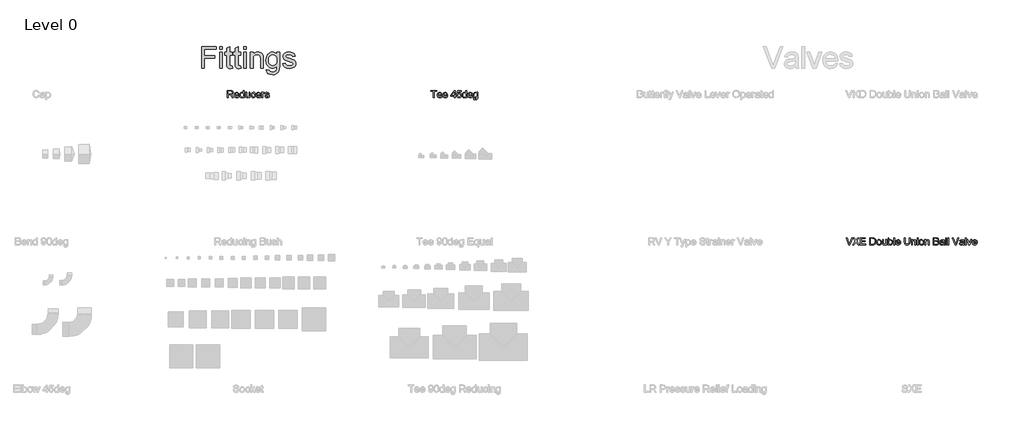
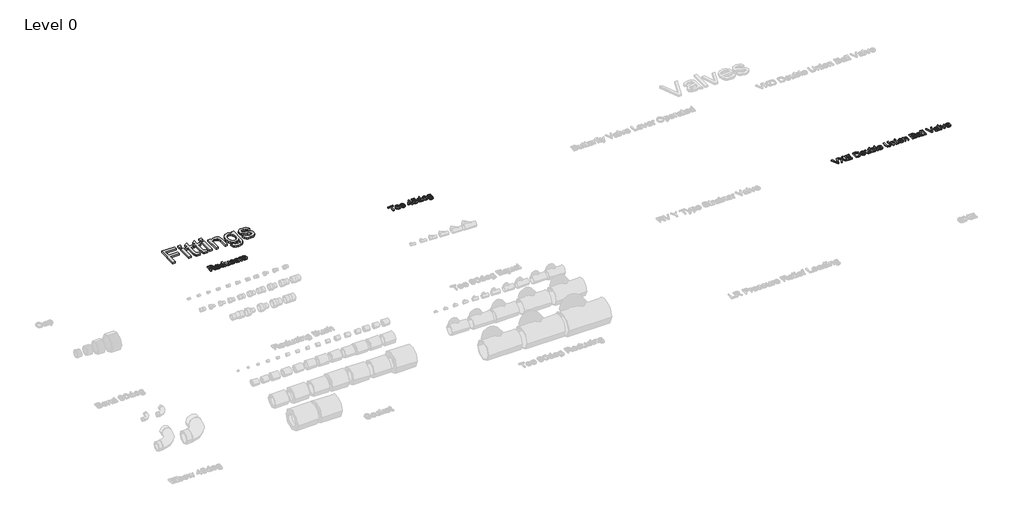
# One storey, part 10 of 12: 4 proxies.
"""IFC4 building model written with IfcOpenShell, lengths in millimetres."""

import ifcopenshell
import ifcopenshell.guid

model = None  # the IFC model being written
_history = None  # IfcOwnerHistory: only IFC2X3 demands one
_inside = {}  # id of a spatial element -> (the spatial element, [elements in it])
_under = {}  # id of a project, library or spatial element -> (it, [spatial elements below it])
_declared = {}  # id of a project -> (the project, [libraries it declares])
_typed = {}  # id of a type object -> (the type object, [elements of that type])
_made_of = {}  # id of a material, layer set ... -> (it, [elements and type objects made of it])


def new_model(schema):
    """Start an empty IFC model of exactly this schema.

    Asked for "IFC4X3", IfcOpenShell would pick the latest addendum, in which some entities
    have other attributes; the version numbers below select the first issue.
    IFC2X3 requires an IfcOwnerHistory on every rooted entity: one is made here for all.
    """
    global model, _history
    if schema == "IFC4X3":
        model = ifcopenshell.file(schema_version=(4, 3, 0, 0))
    else:
        model = ifcopenshell.file(schema=schema)
    _inside.clear()
    _under.clear()
    _declared.clear()
    _typed.clear()
    _made_of.clear()
    _history = None
    if model.schema == "IFC2X3":
        org = make("IfcOrganization", Name="unknown")
        user = make(
            "IfcPersonAndOrganization",
            ThePerson=make("IfcPerson", FamilyName="unknown"),
            TheOrganization=org,
        )
        app = make(
            "IfcApplication",
            ApplicationDeveloper=org,
            Version="unknown",
            ApplicationFullName="unknown",
            ApplicationIdentifier="unknown",
        )
        _history = make(
            "IfcOwnerHistory",
            OwningUser=user,
            OwningApplication=app,
            ChangeAction="ADDED",
            CreationDate=0,
        )
    return model


def make(cls, **values):
    """One entity of the class cls with the attributes given. An attribute that is None is left unset."""
    return model.create_entity(
        cls, **{name: value for name, value in values.items() if value is not None}
    )


def rooted(cls, **values):
    """An entity with a GlobalId (a new one), such as an element, a storey or a relation."""
    return make(cls, GlobalId=ifcopenshell.guid.new(), OwnerHistory=_history, **values)


def si_unit(unit_type, name, prefix=None):
    """IfcSIUnit, for example si_unit("LENGTHUNIT", "METRE", prefix="MILLI")."""
    return make("IfcSIUnit", UnitType=unit_type, Prefix=prefix, Name=name)


def assignment(units):
    """IfcUnitAssignment: the units of a project."""
    return None if units is None else make("IfcUnitAssignment", Units=units)


def point(xyz):
    """IfcCartesianPoint."""
    return None if xyz is None else make("IfcCartesianPoint", Coordinates=xyz)


def direction(xyz):
    """IfcDirection."""
    return None if xyz is None else make("IfcDirection", DirectionRatios=xyz)


def frame(location, z_axis=None, x_axis=None):
    """IfcAxis2Placement3D, a coordinate frame: its origin and axes. An axis left out is left unset."""
    return make(
        "IfcAxis2Placement3D",
        Location=point(location),
        Axis=direction(z_axis),
        RefDirection=direction(x_axis),
    )


def origin():
    """The frame at (0, 0, 0) with its axes left unset."""
    return frame((0.0, 0.0, 0.0))


def origin_with_axes():
    """The frame at (0, 0, 0) with the z axis (0, 0, 1) and the x axis (1, 0, 0) written out."""
    return frame((0.0, 0.0, 0.0), z_axis=(0.0, 0.0, 1.0), x_axis=(1.0, 0.0, 0.0))


def place(relative_to, where):
    """IfcLocalPlacement: puts the frame where relative to a parent placement (None: the world)."""
    return make(
        "IfcLocalPlacement", PlacementRelTo=relative_to, RelativePlacement=where
    )


def context(
    kind, dimensions, precision=None, world=None, true_north=None, identifier=None
):
    """IfcGeometricRepresentationContext, for example the 3D "Model" context."""
    return make(
        "IfcGeometricRepresentationContext",
        ContextIdentifier=identifier,
        ContextType=kind,
        CoordinateSpaceDimension=dimensions,
        Precision=precision,
        WorldCoordinateSystem=world,
        TrueNorth=true_north,
    )


def project(units=None, contexts=None):
    """IfcProject with its units and contexts."""
    return rooted(
        "IfcProject",
        Name="project",
        RepresentationContexts=contexts,
        UnitsInContext=assignment(units),
    )


def spatial(cls, under=None, at=None, **own):
    """A site, building, storey or space (cls), placed at a placement, below another one or the project."""
    s = rooted(cls, ObjectPlacement=at, **own)
    if under is not None:
        _under.setdefault(under.id(), (under, []))[1].append(s)
    return s


def polyline(points):
    """IfcPolyline through the points."""
    return make("IfcPolyline", Points=[point(p) for p in points])


def outline(outer, holes=None, kind="AREA"):
    """IfcArbitraryClosedProfileDef: a profile drawn as a closed curve; with holes, ...WithVoids."""
    if holes is None:
        return make("IfcArbitraryClosedProfileDef", ProfileType=kind, OuterCurve=outer)
    return make(
        "IfcArbitraryProfileDefWithVoids",
        ProfileType=kind,
        OuterCurve=outer,
        InnerCurves=holes,
    )


def extrude(swept, where, along, depth):
    """IfcExtrudedAreaSolid: the profile swept, set in the frame where, extruded along a direction by depth."""
    return make(
        "IfcExtrudedAreaSolid",
        SweptArea=swept,
        Position=where,
        ExtrudedDirection=direction(along),
        Depth=depth,
    )


def shape(context_of_items, identifier, shape_type, items):
    """IfcShapeRepresentation: the items that make up one representation, for example the "Body"."""
    return make(
        "IfcShapeRepresentation",
        ContextOfItems=context_of_items,
        RepresentationIdentifier=identifier,
        RepresentationType=shape_type,
        Items=items,
    )


def made_of(thing, what):
    """Note that an element or type object is made of a material, layer set ...; save() writes the relation."""
    if what is not None:
        _made_of.setdefault(what.id(), (what, []))[1].append(thing)
    return thing


def element(
    cls,
    number,
    at=None,
    inside=None,
    cuts=None,
    type_object=None,
    material=None,
    context=None,
    identifier="Body",
    shape_type=None,
    held_by="IfcProductDefinitionShape",
    body=None,
    shapes=None,
    **own,
):
    """One element of the class cls, such as IfcWall. Its Tag is "e" and its number.

    at: its placement. inside: the storey or other place that contains it. cuts: it is an
    opening in that element (IfcRelVoidsElement). A single representation is given by context,
    identifier, shape_type and body (its items); several are given by shapes. held_by: the class
    of the entity that holds the representations. save() writes the other relations.
    """
    e = rooted(cls, Tag="e%d" % number, ObjectPlacement=at, **own)
    if body is not None:
        shapes = [shape(context, identifier, shape_type, body)]
    if shapes is not None:
        e.Representation = make(held_by, Representations=shapes)
    if inside is not None:
        _inside.setdefault(inside.id(), (inside, []))[1].append(e)
    if cuts is not None:
        rooted(
            "IfcRelVoidsElement", RelatingBuildingElement=cuts, RelatedOpeningElement=e
        )
    if type_object is not None:
        _typed.setdefault(type_object.id(), (type_object, []))[1].append(e)
    return made_of(e, material)


def aggregate(whole, parts):
    """IfcRelAggregates: a whole, such as a stair, and the parts it consists of."""
    return rooted("IfcRelAggregates", RelatingObject=whole, RelatedObjects=parts)


def save(model, path):
    """Write the relations noted so far, then the file.

    IfcRelAggregates (storeys below a building ...), IfcRelContainedInSpatialStructure (elements
    in a storey), IfcRelDefinesByType, IfcRelAssociatesMaterial and IfcRelDeclares: one each for
    every whole, place, type object, material and project.
    """
    for whole, parts in _under.values():
        aggregate(whole, parts)
    for where, things in _inside.values():
        rooted(
            "IfcRelContainedInSpatialStructure",
            RelatedElements=things,
            RelatingStructure=where,
        )
    for kind, things in _typed.values():
        rooted("IfcRelDefinesByType", RelatedObjects=things, RelatingType=kind)
    for what, things in _made_of.values():
        rooted("IfcRelAssociatesMaterial", RelatedObjects=things, RelatingMaterial=what)
    for by, libraries in _declared.values():
        rooted("IfcRelDeclares", RelatingContext=by, RelatedDefinitions=libraries)
    model.write(path)


model = new_model("IFC4")

# Units and contexts
model_context = context("Model", 3, world=origin())
ifc_project = project(units=[si_unit("LENGTHUNIT", "METRE", prefix="MILLI")], contexts=[model_context])

# Site, building, storey
site = spatial("IfcSite", under=ifc_project)
building = spatial("IfcBuilding", under=site)
storey = spatial("IfcBuildingStorey", under=building, Name="Level 0", Elevation=0.0)

# Proxies
placement = place(None, origin())
element("IfcBuildingElementProxy", 1, Name="150mm Arial", ObjectType="150mm Arial", at=placement, inside=storey, context=model_context, shape_type="SweptSolid", body=[
    extrude(outline(polyline([(-13718.7361766, 8945.7253457), (-13718.7361766, 9044.1868842), (-13676.3082919, 9044.1868842), (-13656.6087727, 9041.5306342), (-13645.8395419, 9032.1315957), (-13641.8130996, 9017.2397688), (-13643.4807679, 9007.5402496), (-13648.4837727, 8999.4993842), (-13656.9723544, 8993.6039515), (-13669.0967535, 8990.3407304), (-13662.1015612, 8985.0763073), (-13652.1255996, 8972.408038), (-13635.7073304, 8945.7253457), (-13650.010215, 8945.7253457), (-13662.822715, 8966.1339996), (-13672.0775227, 8979.643615), (-13678.5799266, 8986.0258265), (-13684.4332919, 8988.3695765), (-13691.572715, 8988.8022688), (-13706.4284843, 8988.8022688), (-13706.4284843, 8945.7253457), (-13718.7361766, 8945.7253457)]), holes=[polyline([(-13706.4284843, 9001.1099611), (-13678.8804073, 9001.1099611), (-13664.8299266, 9002.8527496), (-13656.8491573, 9008.4296727), (-13654.1207919, 9016.783038), (-13659.3251189, 9027.6243842), (-13675.7794458, 9031.8791919), (-13706.4284843, 9031.8791919), (-13706.4284843, 9001.1099611)])]), origin_with_axes(), (0.0, 0.0, 1.0), 15.0),
    extrude(outline(polyline([(-13571.1880996, 8967.2638073), (-13559.1207919, 8965.7253457), (-13563.4687487, 8956.6327977), (-13570.4068496, 8949.8359227), (-13579.7788448, 8945.5991438), (-13591.4284843, 8944.1868842), (-13605.86959, 8946.6237832), (-13616.9813689, 8953.9344804), (-13624.0667054, 8965.6442159), (-13626.4284843, 8981.2782304), (-13624.0426669, 8997.4380861), (-13616.885215, 9009.5234227), (-13605.9236766, 9017.0594804), (-13592.1255996, 9019.5714996), (-13578.7572102, 9017.06549), (-13568.0751189, 9009.5474611), (-13561.0709121, 8997.486163), (-13558.7361766, 8981.3503457), (-13558.8082919, 8978.033038), (-13614.1207919, 8978.033038), (-13611.9903833, 8968.8202977), (-13607.041465, 8962.0474611), (-13591.1880996, 8956.4945765), (-13579.1207919, 8959.0666919), (-13571.1880996, 8967.2638073)]), holes=[polyline([(-13614.1207919, 8990.3407304), (-13571.0438689, 8990.3407304), (-13575.9717535, 9001.4945765), (-13583.1472343, 9005.8214996), (-13592.1736766, 9007.2638073), (-13607.3299266, 9002.6604419), (-13614.1207919, 8990.3407304)])]), origin_with_axes(), (0.0, 0.0, 1.0), 15.0),
    extrude(outline(polyline([(-13501.8130996, 8945.7253457), (-13501.8130996, 8957.3359227), (-13509.9561285, 8947.4741438), (-13521.2121381, 8944.1868842), (-13536.4525227, 8948.9464996), (-13547.2217535, 8962.2277496), (-13551.0438689, 8981.8070765), (-13547.5222343, 9001.3984227), (-13536.9693496, 9014.8839996), (-13521.260215, 9019.5714996), (-13509.9140612, 9016.2181342), (-13501.8130996, 9007.5041919), (-13501.8130996, 9044.1868842), (-13489.5054073, 9044.1868842), (-13489.5054073, 8945.7253457), (-13501.8130996, 8945.7253457)]), holes=[polyline([(-13538.7361766, 8981.8551534), (-13537.3479554, 8970.7223409), (-13533.1832919, 8962.8046727), (-13527.1316093, 8958.0721005), (-13520.0823304, 8956.4945765), (-13513.0360564, 8957.9999852), (-13507.1376189, 8962.5162111), (-13503.1442294, 8970.127389), (-13501.8130996, 8980.9176534), (-13503.1682679, 8992.7145284), (-13507.2337727, 9000.893615), (-13513.2824506, 9005.6712592), (-13520.5871381, 9007.2638073), (-13527.7085323, 9005.7343602), (-13533.5438689, 9001.1460188), (-13537.4380996, 8993.2644082), (-13538.7361766, 8981.8551534)])]), origin_with_axes(), (0.0, 0.0, 1.0), 15.0),
    extrude(outline(polyline([(-13424.8900227, 8945.7253457), (-13424.8900227, 8958.1532304), (-13434.5294458, 8947.6784707), (-13447.1015612, 8944.1868842), (-13458.6760804, 8946.6388073), (-13466.6568496, 8952.7926534), (-13470.322715, 8961.8551534), (-13471.0438689, 8973.2974611), (-13471.0438689, 9018.033038), (-13458.7361766, 9018.033038), (-13458.7361766, 8979.0907304), (-13457.9909843, 8966.5426534), (-13453.1231958, 8959.174865), (-13443.9525227, 8956.4945765), (-13433.6760804, 8959.2349611), (-13426.885215, 8966.6989034), (-13424.8900227, 8980.4128457), (-13424.8900227, 9018.033038), (-13412.5823304, 9018.033038), (-13412.5823304, 8945.7253457), (-13424.8900227, 8945.7253457)])), origin_with_axes(), (0.0, 0.0, 1.0), 15.0),
    extrude(outline(polyline([(-13349.5054073, 8971.8791919), (-13337.197715, 8970.3407304), (-13340.6292054, 8959.3942159), (-13347.0775227, 8951.1219804), (-13355.9356958, 8945.9206582), (-13366.5967535, 8944.1868842), (-13379.6887006, 8946.6057544), (-13389.9260804, 8953.862365), (-13396.5336525, 8965.6382063), (-13398.7361766, 8981.6147688), (-13394.9741573, 9002.0594804), (-13383.5078112, 9015.1964996), (-13366.7650227, 9019.5714996), (-13356.3653833, 9018.0690957), (-13348.0510804, 9013.5618842), (-13342.0865371, 9006.2902496), (-13338.7361766, 8996.4945765), (-13351.0438689, 8994.956115), (-13356.7530035, 9004.174865), (-13366.6688689, 9007.2638073), (-13374.6225948, 9005.7433746), (-13380.9356958, 9001.1820765), (-13385.0552871, 8993.3335188), (-13386.4284843, 8981.9513073), (-13385.0853352, 8970.4158505), (-13381.0558881, 8962.5402496), (-13374.8569698, 8958.0059948), (-13367.0054073, 8956.4945765), (-13355.4068496, 8960.268615), (-13349.5054073, 8971.8791919)])), origin_with_axes(), (0.0, 0.0, 1.0), 15.0),
    extrude(outline(polyline([(-13275.8034843, 8967.2638073), (-13263.7361766, 8965.7253457), (-13268.0841333, 8956.6327977), (-13275.0222343, 8949.8359227), (-13284.3942294, 8945.5991438), (-13296.0438689, 8944.1868842), (-13310.4849746, 8946.6237832), (-13321.5967535, 8953.9344804), (-13328.68209, 8965.6442159), (-13331.0438689, 8981.2782304), (-13328.6580516, 8997.4380861), (-13321.5005996, 9009.5234227), (-13310.5390612, 9017.0594804), (-13296.7409843, 9019.5714996), (-13283.3725948, 9017.06549), (-13272.6905035, 9009.5474611), (-13265.6862968, 8997.486163), (-13263.3515612, 8981.3503457), (-13263.4236766, 8978.033038), (-13318.7361766, 8978.033038), (-13316.6057679, 8968.8202977), (-13311.6568496, 8962.0474611), (-13295.8034843, 8956.4945765), (-13283.7361766, 8959.0666919), (-13275.8034843, 8967.2638073)]), holes=[polyline([(-13318.7361766, 8990.3407304), (-13275.6592535, 8990.3407304), (-13280.5871381, 9001.4945765), (-13287.7626189, 9005.8214996), (-13296.7890612, 9007.2638073), (-13311.9453112, 9002.6604419), (-13318.7361766, 8990.3407304)])]), origin_with_axes(), (0.0, 0.0, 1.0), 15.0),
    extrude(outline(polyline([(-13251.0438689, 8945.7253457), (-13251.0438689, 9018.033038), (-13240.2746381, 9018.033038), (-13240.2746381, 9007.3359227), (-13232.6304073, 9017.1916919), (-13224.9380996, 9019.5714996), (-13212.5823304, 9015.7734227), (-13216.6929073, 9004.7397688), (-13225.3467535, 9007.2638073), (-13232.3058881, 9004.8359227), (-13236.7409843, 8998.1051534), (-13238.7361766, 8983.7301534), (-13238.7361766, 8945.7253457), (-13251.0438689, 8945.7253457)])), origin_with_axes(), (0.0, 0.0, 1.0), 15.0),
    extrude(outline(polyline([(-13209.5054073, 8967.2638073), (-13197.197715, 8968.8022688), (-13191.5005996, 8959.6676534), (-13178.447715, 8956.4945765), (-13165.8996381, 8959.4032304), (-13161.8130996, 8966.2301534), (-13165.9236766, 8971.7589996), (-13178.5919458, 8975.268615), (-13197.1255996, 8981.2902496), (-13205.2145419, 8988.3214996), (-13207.9669458, 8998.2493842), (-13205.7554073, 9007.4200573), (-13199.7217535, 9014.4272688), (-13191.8972343, 9018.0690957), (-13181.3082919, 9019.5714996), (-13166.3323304, 9017.1556342), (-13156.8130996, 9010.6171727), (-13152.5823304, 8999.5714996), (-13164.8900227, 8998.033038), (-13169.5174266, 9004.8239034), (-13180.3467535, 9007.2638073), (-13192.1255996, 9004.9320765), (-13195.6592535, 8999.4993842), (-13194.1929073, 8995.9176534), (-13189.6015612, 8993.2013073), (-13179.0005996, 8990.581115), (-13160.9356958, 8984.7878457), (-13152.5462727, 8978.2253457), (-13149.5054073, 8967.5282304), (-13153.0751189, 8955.7493842), (-13163.3755996, 8947.2037111), (-13178.6159843, 8944.1868842), (-13191.02584, 8945.6412111), (-13200.0823304, 8950.0041919), (-13206.1280035, 8957.2277496), (-13209.5054073, 8967.2638073)])), origin_with_axes(), (0.0, 0.0, 1.0), 15.0),
])
element("IfcBuildingElementProxy", 2, Name="150mm Arial", ObjectType="150mm Arial", at=placement, inside=storey, context=model_context, shape_type="SweptSolid", body=[
    extrude(outline(polyline([(-10926.4284843, 8945.7253457), (-10926.4284843, 9031.8791919), (-10958.7361766, 9031.8791919), (-10958.7361766, 9044.1868842), (-10881.8130996, 9044.1868842), (-10881.8130996, 9031.8791919), (-10914.1207919, 9031.8791919), (-10914.1207919, 8945.7253457), (-10926.4284843, 8945.7253457)])), origin_with_axes(), (0.0, 0.0, 1.0), 15.0),
    extrude(outline(polyline([(-10818.8804073, 8967.2638073), (-10806.8130996, 8965.7253457), (-10811.1610564, 8956.6327977), (-10818.0991573, 8949.8359227), (-10827.4711525, 8945.5991438), (-10839.1207919, 8944.1868842), (-10853.5618977, 8946.6237832), (-10864.6736766, 8953.9344804), (-10871.7590131, 8965.6442159), (-10874.1207919, 8981.2782304), (-10871.7349746, 8997.4380861), (-10864.5775227, 9009.5234227), (-10853.6159843, 9017.0594804), (-10839.8179073, 9019.5714996), (-10826.4495179, 9017.06549), (-10815.7674266, 9009.5474611), (-10808.7632198, 8997.486163), (-10806.4284843, 8981.3503457), (-10806.5005996, 8978.033038), (-10861.8130996, 8978.033038), (-10859.682691, 8968.8202977), (-10854.7337727, 8962.0474611), (-10838.8804073, 8956.4945765), (-10826.8130996, 8959.0666919), (-10818.8804073, 8967.2638073)]), holes=[polyline([(-10861.8130996, 8990.3407304), (-10818.7361766, 8990.3407304), (-10823.6640612, 9001.4945765), (-10830.8395419, 9005.8214996), (-10839.8659843, 9007.2638073), (-10855.0222343, 9002.6604419), (-10861.8130996, 8990.3407304)])]), origin_with_axes(), (0.0, 0.0, 1.0), 15.0),
    extrude(outline(polyline([(-10743.4957919, 8967.2638073), (-10731.4284843, 8965.7253457), (-10735.776441, 8956.6327977), (-10742.7145419, 8949.8359227), (-10752.0865371, 8945.5991438), (-10763.7361766, 8944.1868842), (-10778.1772823, 8946.6237832), (-10789.2890612, 8953.9344804), (-10796.3743977, 8965.6442159), (-10798.7361766, 8981.2782304), (-10796.3503593, 8997.4380861), (-10789.1929073, 9009.5234227), (-10778.2313689, 9017.0594804), (-10764.4332919, 9019.5714996), (-10751.0649025, 9017.06549), (-10740.3828112, 9009.5474611), (-10733.3786044, 8997.486163), (-10731.0438689, 8981.3503457), (-10731.1159843, 8978.033038), (-10786.4284843, 8978.033038), (-10784.2980756, 8968.8202977), (-10779.3491573, 8962.0474611), (-10763.4957919, 8956.4945765), (-10751.4284843, 8959.0666919), (-10743.4957919, 8967.2638073)]), holes=[polyline([(-10786.4284843, 8990.3407304), (-10743.3515612, 8990.3407304), (-10748.2794458, 9001.4945765), (-10755.4549266, 9005.8214996), (-10764.4813689, 9007.2638073), (-10779.6376189, 9002.6604419), (-10786.4284843, 8990.3407304)])]), origin_with_axes(), (0.0, 0.0, 1.0), 15.0),
    extrude(outline(polyline([(-10643.3515612, 8945.7253457), (-10643.3515612, 8968.8022688), (-10687.9669458, 8968.8022688), (-10687.9669458, 8981.1099611), (-10640.2746381, 9042.6484227), (-10631.0438689, 9042.6484227), (-10631.0438689, 8981.1099611), (-10618.7361766, 8981.1099611), (-10618.7361766, 8968.8022688), (-10631.0438689, 8968.8022688), (-10631.0438689, 8945.7253457), (-10643.3515612, 8945.7253457)]), holes=[polyline([(-10643.3515612, 8981.1099611), (-10643.3515612, 9019.1388073), (-10672.822715, 8981.1099611), (-10643.3515612, 8981.1099611)])]), origin_with_axes(), (0.0, 0.0, 1.0), 15.0),
    extrude(outline(polyline([(-10607.9669458, 8971.8791919), (-10595.6592535, 8973.4176534), (-10589.4573304, 8960.737365), (-10576.5967535, 8956.4945765), (-10567.7746381, 8957.9699371), (-10561.1640612, 8962.3960188), (-10557.0354554, 8969.2620044), (-10555.6592535, 8978.0570765), (-10560.8155035, 8992.6724611), (-10567.2908641, 8996.6928938), (-10576.4044458, 8998.033038), (-10587.2097343, 8995.893615), (-10594.1207919, 8990.3407304), (-10606.4284843, 8991.8791919), (-10595.6592535, 9042.6484227), (-10547.9669458, 9042.6484227), (-10547.9669458, 9030.3407304), (-10585.7073304, 9030.3407304), (-10590.9717535, 9003.2253457), (-10582.1796862, 9008.5618842), (-10572.9669458, 9010.3407304), (-10561.4675468, 9008.1352015), (-10551.9212727, 9001.518615), (-10545.4939891, 8991.4344804), (-10543.3515612, 8978.8263073), (-10545.2806477, 8966.518615), (-10551.0679073, 8955.9897688), (-10562.1496381, 8947.1376054), (-10576.6448304, 8944.1868842), (-10588.7331718, 8946.0829179), (-10598.3635804, 8951.7710188), (-10604.9651429, 8960.5901294), (-10607.9669458, 8971.8791919)])), origin_with_axes(), (0.0, 0.0, 1.0), 15.0),
    extrude(outline(polyline([(-10484.8900227, 8945.7253457), (-10484.8900227, 8957.3359227), (-10493.0330516, 8947.4741438), (-10504.2890612, 8944.1868842), (-10519.5294458, 8948.9464996), (-10530.2986766, 8962.2277496), (-10534.1207919, 8981.8070765), (-10530.5991573, 9001.3984227), (-10520.0462727, 9014.8839996), (-10504.3371381, 9019.5714996), (-10492.9909843, 9016.2181342), (-10484.8900227, 9007.5041919), (-10484.8900227, 9044.1868842), (-10472.5823304, 9044.1868842), (-10472.5823304, 8945.7253457), (-10484.8900227, 8945.7253457)]), holes=[polyline([(-10521.8130996, 8981.8551534), (-10520.4248785, 8970.7223409), (-10516.260215, 8962.8046727), (-10510.2085323, 8958.0721005), (-10503.1592535, 8956.4945765), (-10496.1129794, 8957.9999852), (-10490.2145419, 8962.5162111), (-10486.2211525, 8970.127389), (-10484.8900227, 8980.9176534), (-10486.245191, 8992.7145284), (-10490.3106958, 9000.893615), (-10496.3593737, 9005.6712592), (-10503.6640612, 9007.2638073), (-10510.7854554, 9005.7343602), (-10516.6207919, 9001.1460188), (-10520.5150227, 8993.2644082), (-10521.8130996, 8981.8551534)])]), origin_with_axes(), (0.0, 0.0, 1.0), 15.0),
    extrude(outline(polyline([(-10403.4957919, 8967.2638073), (-10391.4284843, 8965.7253457), (-10395.776441, 8956.6327977), (-10402.7145419, 8949.8359227), (-10412.0865371, 8945.5991438), (-10423.7361766, 8944.1868842), (-10438.1772823, 8946.6237832), (-10449.2890612, 8953.9344804), (-10456.3743977, 8965.6442159), (-10458.7361766, 8981.2782304), (-10456.3503593, 8997.4380861), (-10449.1929073, 9009.5234227), (-10438.2313689, 9017.0594804), (-10424.4332919, 9019.5714996), (-10411.0649025, 9017.06549), (-10400.3828112, 9009.5474611), (-10393.3786044, 8997.486163), (-10391.0438689, 8981.3503457), (-10391.1159843, 8978.033038), (-10446.4284843, 8978.033038), (-10444.2980756, 8968.8202977), (-10439.3491573, 8962.0474611), (-10423.4957919, 8956.4945765), (-10411.4284843, 8959.0666919), (-10403.4957919, 8967.2638073)]), holes=[polyline([(-10446.4284843, 8990.3407304), (-10403.3515612, 8990.3407304), (-10408.2794458, 9001.4945765), (-10415.4549266, 9005.8214996), (-10424.4813689, 9007.2638073), (-10439.6376189, 9002.6604419), (-10446.4284843, 8990.3407304)])]), origin_with_axes(), (0.0, 0.0, 1.0), 15.0),
    extrude(outline(polyline([(-10381.8130996, 8939.5714996), (-10369.5054073, 8938.033038), (-10365.5150227, 8931.5426534), (-10353.5679073, 8928.8022688), (-10340.9717535, 8931.9032304), (-10334.9621381, 8940.6051534), (-10334.1207919, 8954.956115), (-10342.7866573, 8948.033038), (-10353.3515612, 8945.7253457), (-10366.0408641, 8948.4116438), (-10375.5030035, 8956.470538), (-10381.3894218, 8968.2854419), (-10383.3515612, 8982.2397688), (-10379.8299266, 9001.314288), (-10369.6376189, 9014.8118842), (-10353.9525227, 9019.5714996), (-10342.9729554, 9016.8791919), (-10334.1207919, 9008.8022688), (-10334.1207919, 9018.033038), (-10321.8130996, 9018.033038), (-10321.8130996, 8955.6051534), (-10325.1784843, 8931.6989034), (-10335.8395419, 8920.581115), (-10353.8082919, 8916.4945765), (-10365.2596141, 8917.9338794), (-10374.2770419, 8922.251788), (-10380.0612968, 8929.4603217), (-10381.8130996, 8939.5714996)]), holes=[polyline([(-10371.0438689, 8983.081115), (-10369.7307679, 8971.7920525), (-10365.791465, 8964.0306342), (-10359.8689891, 8959.5324371), (-10352.6063689, 8958.033038), (-10345.3978352, 8959.5234227), (-10339.4453112, 8963.9945765), (-10335.4519218, 8971.6568361), (-10334.1207919, 8982.720538), (-10335.4909843, 8993.3906102), (-10339.6015612, 9001.0739034), (-10345.6412246, 9005.7163313), (-10352.7986766, 9007.2638073), (-10359.8269218, 9005.7403698), (-10365.7193496, 9001.1700573), (-10369.7127391, 8993.6009467), (-10371.0438689, 8983.081115)])]), origin_with_axes(), (0.0, 0.0, 1.0), 15.0),
])
element("IfcBuildingElementProxy", 3, Name="150mm Arial", ObjectType="150mm Arial", at=placement, inside=storey, context=model_context, shape_type="SweptSolid", body=[
    extrude(outline(polyline([(-5288.8804073, 6945.7253457), (-5328.0630996, 7044.1868842), (-5314.8900227, 7044.1868842), (-5288.6640612, 6973.2493842), (-5283.3515612, 6957.2638073), (-5278.1111766, 6973.2493842), (-5251.8130996, 7044.1868842), (-5238.6400227, 7044.1868842), (-5276.1640612, 6945.7253457), (-5288.8804073, 6945.7253457)])), origin_with_axes(), (0.0, 0.0, 1.0), 15.0),
    extrude(outline(polyline([(-5237.9669458, 6945.7253457), (-5200.010215, 6999.3791919), (-5231.8130996, 7044.1868842), (-5217.0534843, 7044.1868842), (-5199.1448304, 7018.970538), (-5193.1111766, 7009.1388073), (-5186.0438689, 7019.1388073), (-5168.3275227, 7044.1868842), (-5153.3515612, 7044.1868842), (-5185.1544458, 6999.2349611), (-5147.197715, 6945.7253457), (-5161.9573304, 6945.7253457), (-5187.2457919, 6981.3984227), (-5192.510215, 6988.8022688), (-5198.3034843, 6980.6772688), (-5222.9909843, 6945.7253457), (-5237.9669458, 6945.7253457)])), origin_with_axes(), (0.0, 0.0, 1.0), 15.0),
    extrude(outline(polyline([(-5134.8900227, 6945.7253457), (-5134.8900227, 7044.1868842), (-5064.1207919, 7044.1868842), (-5064.1207919, 7031.8791919), (-5122.5823304, 7031.8791919), (-5122.5823304, 7002.6484227), (-5067.197715, 7002.6484227), (-5067.197715, 6990.3407304), (-5122.5823304, 6990.3407304), (-5122.5823304, 6958.033038), (-5062.5823304, 6958.033038), (-5062.5823304, 6945.7253457), (-5134.8900227, 6945.7253457)])), origin_with_axes(), (0.0, 0.0, 1.0), 15.0),
    extrude(outline(polyline([(-5005.6592535, 6945.7253457), (-5005.6592535, 7044.1868842), (-4971.6929073, 7044.1868842), (-4954.1207919, 7042.768615), (-4939.6496381, 7035.7253457), (-4927.9909843, 7018.8984227), (-4924.1207919, 6995.4849611), (-4926.7409843, 6975.6171727), (-4933.4717535, 6961.2782304), (-4942.4621381, 6952.3479419), (-4954.228965, 6947.408038), (-4970.0582919, 6945.7253457), (-5005.6592535, 6945.7253457)]), holes=[polyline([(-4993.3515612, 6958.033038), (-4971.572715, 6958.033038), (-4955.7313689, 6959.8118842), (-4946.5967535, 6964.8359227), (-4939.1087727, 6977.0594804), (-4936.4284843, 6995.6772688), (-4937.7415852, 7009.0907304), (-4941.6808881, 7018.9945765), (-4954.4573304, 7029.908038), (-4971.9092535, 7031.8791919), (-4993.3515612, 7031.8791919), (-4993.3515612, 6958.033038)])]), origin_with_axes(), (0.0, 0.0, 1.0), 15.0),
    extrude(outline(polyline([(-4911.8130996, 6981.8791919), (-4909.15084, 6999.3130861), (-4901.1640612, 7011.5666919), (-4891.2962727, 7017.5702977), (-4879.4813689, 7019.5714996), (-4866.5516814, 7017.1346005), (-4856.2241573, 7009.8239034), (-4849.4543256, 6998.2163313), (-4847.197715, 6982.8888073), (-4851.1880996, 6960.9897688), (-4862.8106958, 6948.5979419), (-4879.4813689, 6944.1868842), (-4892.5673064, 6946.6147688), (-4902.8828112, 6953.8984227), (-4909.5805275, 6965.7493842), (-4911.8130996, 6981.8791919)]), holes=[polyline([(-4899.5054073, 6981.9032304), (-4898.0811285, 6970.7644082), (-4893.8082919, 6962.8287111), (-4887.3780035, 6958.0781102), (-4879.4813689, 6956.4945765), (-4871.6207919, 6958.0871246), (-4865.2025227, 6962.8647688), (-4860.9296862, 6970.9056342), (-4859.5054073, 6982.2878457), (-4860.9387006, 6993.1021486), (-4865.2385804, 7000.9296727), (-4871.6658641, 7005.6802736), (-4879.4813689, 7007.2638073), (-4887.3780035, 7005.6862832), (-4893.8082919, 7000.9537111), (-4898.0811285, 6993.0360429), (-4899.5054073, 6981.9032304)])]), origin_with_axes(), (0.0, 0.0, 1.0), 15.0),
    extrude(outline(polyline([(-4787.197715, 6945.7253457), (-4787.197715, 6958.1532304), (-4796.8371381, 6947.6784707), (-4809.4092535, 6944.1868842), (-4820.9837727, 6946.6388073), (-4828.9645419, 6952.7926534), (-4832.6304073, 6961.8551534), (-4833.3515612, 6973.2974611), (-4833.3515612, 7018.033038), (-4821.0438689, 7018.033038), (-4821.0438689, 6979.0907304), (-4820.2986766, 6966.5426534), (-4815.4308881, 6959.174865), (-4806.260215, 6956.4945765), (-4795.9837727, 6959.2349611), (-4789.1929073, 6966.6989034), (-4787.197715, 6980.4128457), (-4787.197715, 7018.033038), (-4774.8900227, 7018.033038), (-4774.8900227, 6945.7253457), (-4787.197715, 6945.7253457)])), origin_with_axes(), (0.0, 0.0, 1.0), 15.0),
    extrude(outline(polyline([(-4745.6592535, 6945.7253457), (-4757.9669458, 6945.7253457), (-4757.9669458, 7044.1868842), (-4745.6592535, 7044.1868842), (-4745.6592535, 7007.6724611), (-4737.041465, 7016.59674), (-4726.3323304, 7019.5714996), (-4714.0005996, 7016.8912111), (-4704.4332919, 7009.3551534), (-4698.5558881, 6997.6364034), (-4696.4284843, 6982.9609227), (-4698.6310083, 6966.5306342), (-4705.2385804, 6954.3070765), (-4714.9350948, 6946.7169323), (-4726.4044458, 6944.1868842), (-4737.3479554, 6947.4501054), (-4745.6592535, 6957.2397688), (-4745.6592535, 6945.7253457)]), holes=[polyline([(-4745.6592535, 6982.3839996), (-4742.2938689, 6965.1724611), (-4735.8455516, 6958.6640477), (-4727.4621381, 6956.4945765), (-4720.3587727, 6958.0931342), (-4714.2890612, 6962.8888073), (-4710.1243977, 6970.8515477), (-4708.7361766, 6981.9513073), (-4710.0673064, 6993.2133265), (-4714.0606958, 7001.0859227), (-4719.9411044, 7005.7193361), (-4726.9332919, 7007.2638073), (-4734.0366573, 7005.6652496), (-4740.1063689, 7000.8695765), (-4744.2710323, 6993.0510669), (-4745.6592535, 6982.3839996)])]), origin_with_axes(), (0.0, 0.0, 1.0), 15.0),
    extrude(outline(polyline([(-4682.5823304, 6945.7253457), (-4682.5823304, 7044.1868842), (-4670.2746381, 7044.1868842), (-4670.2746381, 6945.7253457), (-4682.5823304, 6945.7253457)])), origin_with_axes(), (0.0, 0.0, 1.0), 15.0),
    extrude(outline(polyline([(-4601.1880996, 6967.2638073), (-4589.1207919, 6965.7253457), (-4593.4687487, 6956.6327977), (-4600.4068496, 6949.8359227), (-4609.7788448, 6945.5991438), (-4621.4284843, 6944.1868842), (-4635.86959, 6946.6237832), (-4646.9813689, 6953.9344804), (-4654.0667054, 6965.6442159), (-4656.4284843, 6981.2782304), (-4654.0426669, 6997.4380861), (-4646.885215, 7009.5234227), (-4635.9236766, 7017.0594804), (-4622.1255996, 7019.5714996), (-4608.7572102, 7017.06549), (-4598.0751189, 7009.5474611), (-4591.0709121, 6997.486163), (-4588.7361766, 6981.3503457), (-4588.8082919, 6978.033038), (-4644.1207919, 6978.033038), (-4641.9903833, 6968.8202977), (-4637.041465, 6962.0474611), (-4621.1880996, 6956.4945765), (-4609.1207919, 6959.0666919), (-4601.1880996, 6967.2638073)]), holes=[polyline([(-4644.1207919, 6990.3407304), (-4601.0438689, 6990.3407304), (-4605.9717535, 7001.4945765), (-4613.1472343, 7005.8214996), (-4622.1736766, 7007.2638073), (-4637.3299266, 7002.6604419), (-4644.1207919, 6990.3407304)])]), origin_with_axes(), (0.0, 0.0, 1.0), 15.0),
    extrude(outline(polyline([(-4471.8130996, 7044.1868842), (-4459.5054073, 7044.1868842), (-4459.5054073, 6987.3839996), (-4462.8467535, 6963.8383265), (-4474.8900227, 6949.6556342), (-4484.9501189, 6945.5540717), (-4497.7265612, 6944.1868842), (-4520.2145419, 6948.9464996), (-4527.7025227, 6954.7728217), (-4532.6905035, 6962.7325573), (-4536.4284843, 6987.3839996), (-4536.4284843, 7044.1868842), (-4524.1207919, 7044.1868842), (-4524.1207919, 6987.8166919), (-4521.6929073, 6969.0546727), (-4513.3515612, 6959.7638073), (-4498.8804073, 6956.4945765), (-4486.3623785, 6958.111163), (-4478.0390612, 6962.9609227), (-4473.36959, 6972.408038), (-4471.8130996, 6987.8166919), (-4471.8130996, 7044.1868842)])), origin_with_axes(), (0.0, 0.0, 1.0), 15.0),
    extrude(outline(polyline([(-4439.5054073, 6945.7253457), (-4439.5054073, 7018.033038), (-4427.197715, 7018.033038), (-4427.197715, 7007.9368842), (-4417.7866573, 7016.6628457), (-4404.9380996, 7019.5714996), (-4393.3155035, 7017.2277496), (-4385.3828112, 7011.0739034), (-4381.6929073, 7002.0234227), (-4381.0438689, 6990.1243842), (-4381.0438689, 6945.7253457), (-4393.3515612, 6945.7253457), (-4393.3515612, 6988.4657304), (-4394.7698304, 6999.3551534), (-4399.7818496, 7005.112365), (-4408.2313689, 7007.2638073), (-4421.5847343, 7002.4320765), (-4425.7944698, 6995.4308746), (-4427.197715, 6984.0907304), (-4427.197715, 6945.7253457), (-4439.5054073, 6945.7253457)])), origin_with_axes(), (0.0, 0.0, 1.0), 15.0),
    extrude(outline(polyline([(-4364.1207919, 7031.8791919), (-4364.1207919, 7044.1868842), (-4351.8130996, 7044.1868842), (-4351.8130996, 7031.8791919), (-4364.1207919, 7031.8791919)])), origin_with_axes(), (0.0, 0.0, 1.0), 15.0),
    extrude(outline(polyline([(-4364.1207919, 6945.7253457), (-4364.1207919, 7018.033038), (-4351.8130996, 7018.033038), (-4351.8130996, 6945.7253457), (-4364.1207919, 6945.7253457)])), origin_with_axes(), (0.0, 0.0, 1.0), 15.0),
    extrude(outline(polyline([(-4336.4284843, 6981.8791919), (-4333.7662246, 6999.3130861), (-4325.7794458, 7011.5666919), (-4315.9116573, 7017.5702977), (-4304.0967535, 7019.5714996), (-4291.167066, 7017.1346005), (-4280.8395419, 7009.8239034), (-4274.0697102, 6998.2163313), (-4271.8130996, 6982.8888073), (-4275.8034843, 6960.9897688), (-4287.4260804, 6948.5979419), (-4304.0967535, 6944.1868842), (-4317.182691, 6946.6147688), (-4327.4981958, 6953.8984227), (-4334.1959121, 6965.7493842), (-4336.4284843, 6981.8791919)]), holes=[polyline([(-4324.1207919, 6981.9032304), (-4322.6965131, 6970.7644082), (-4318.4236766, 6962.8287111), (-4311.9933881, 6958.0781102), (-4304.0967535, 6956.4945765), (-4296.2361766, 6958.0871246), (-4289.8179073, 6962.8647688), (-4285.5450708, 6970.9056342), (-4284.1207919, 6982.2878457), (-4285.5540852, 6993.1021486), (-4289.853965, 7000.9296727), (-4296.2812487, 7005.6802736), (-4304.0967535, 7007.2638073), (-4311.9933881, 7005.6862832), (-4318.4236766, 7000.9537111), (-4322.6965131, 6993.0360429), (-4324.1207919, 6981.9032304)])]), origin_with_axes(), (0.0, 0.0, 1.0), 15.0),
    extrude(outline(polyline([(-4257.9669458, 6945.7253457), (-4257.9669458, 7018.033038), (-4245.6592535, 7018.033038), (-4245.6592535, 7007.9368842), (-4236.2481958, 7016.6628457), (-4223.3996381, 7019.5714996), (-4211.7770419, 7017.2277496), (-4203.8443496, 7011.0739034), (-4200.1544458, 7002.0234227), (-4199.5054073, 6990.1243842), (-4199.5054073, 6945.7253457), (-4211.8130996, 6945.7253457), (-4211.8130996, 6988.4657304), (-4213.2313689, 6999.3551534), (-4218.2433881, 7005.112365), (-4226.6929073, 7007.2638073), (-4240.0462727, 7002.4320765), (-4244.2560083, 6995.4308746), (-4245.6592535, 6984.0907304), (-4245.6592535, 6945.7253457), (-4257.9669458, 6945.7253457)])), origin_with_axes(), (0.0, 0.0, 1.0), 15.0),
    extrude(outline(polyline([(-4142.5823304, 6945.7253457), (-4142.5823304, 7044.1868842), (-4105.010215, 7044.1868842), (-4086.6087727, 7041.2902496), (-4075.7433881, 7032.3839996), (-4071.8130996, 7019.7878457), (-4075.1183881, 7008.2854419), (-4085.1063689, 6999.5714996), (-4072.978965, 6990.3888073), (-4068.7361766, 6975.0763073), (-4071.6328112, 6961.8431342), (-4078.8082919, 6952.4200573), (-4089.5174266, 6947.4200573), (-4105.2986766, 6945.7253457), (-4142.5823304, 6945.7253457)]), holes=[polyline([(-4130.2746381, 7004.1868842), (-4107.7986766, 7004.1868842), (-4094.6736766, 7005.2445765), (-4086.7770419, 7009.799865), (-4084.1207919, 7017.8166919), (-4086.5967535, 7025.845538), (-4093.6880996, 7030.5931342), (-4109.5054073, 7031.8791919), (-4130.2746381, 7031.8791919), (-4130.2746381, 7004.1868842)]), polyline([(-4130.2746381, 6958.033038), (-4105.0342535, 6958.033038), (-4095.8996381, 6958.5138073), (-4088.1712727, 6961.1940957), (-4083.0510804, 6966.6628457), (-4081.0438689, 6974.956115), (-4083.3996381, 6984.5234227), (-4091.0318496, 6990.2325573), (-4106.2361766, 6991.8791919), (-4130.2746381, 6991.8791919), (-4130.2746381, 6958.033038)])]), origin_with_axes(), (0.0, 0.0, 1.0), 15.0),
    extrude(outline(polyline([(-4007.197715, 6954.956115), (-4019.1328112, 6946.6147688), (-4032.3179073, 6944.1868842), (-4042.6033641, 6945.6472207), (-4050.1905035, 6950.0282304), (-4054.8689891, 6956.6808746), (-4056.4284843, 6964.956115), (-4054.072715, 6974.6916919), (-4047.8828112, 6981.7589996), (-4039.2650227, 6985.7974611), (-4028.6159843, 6987.6484227), (-4007.2698304, 6991.8791919), (-4007.197715, 6994.6195765), (-4010.5871381, 7003.706115), (-4024.1929073, 7007.2638073), (-4036.6448304, 7004.8960188), (-4042.5823304, 6996.4945765), (-4054.8900227, 6998.033038), (-4049.5655035, 7010.0522688), (-4038.8443496, 7017.095538), (-4022.6063689, 7019.5714996), (-4007.6905035, 7017.3839996), (-3999.2650227, 7011.8912111), (-3995.4909843, 7003.5378457), (-3994.8900227, 6992.768615), (-3994.8900227, 6977.456115), (-3994.2650227, 6956.0739034), (-3991.8130996, 6945.7253457), (-4004.1207919, 6945.7253457), (-4007.197715, 6954.956115)]), holes=[polyline([(-4007.197715, 6979.5714996), (-4027.0534843, 6975.7974611), (-4037.6424266, 6973.8022688), (-4042.4380996, 6970.5570765), (-4044.1207919, 6965.8214996), (-4040.4549266, 6959.1628457), (-4029.697715, 6956.4945765), (-4017.2457919, 6959.439288), (-4009.2169458, 6966.5666919), (-4007.2698304, 6976.0859227), (-4007.197715, 6979.5714996)])]), origin_with_axes(), (0.0, 0.0, 1.0), 15.0),
    extrude(outline(polyline([(-3977.9669458, 6945.7253457), (-3977.9669458, 7044.1868842), (-3965.6592535, 7044.1868842), (-3965.6592535, 6945.7253457), (-3977.9669458, 6945.7253457)])), origin_with_axes(), (0.0, 0.0, 1.0), 15.0),
    extrude(outline(polyline([(-3947.197715, 6945.7253457), (-3947.197715, 7044.1868842), (-3934.8900227, 7044.1868842), (-3934.8900227, 6945.7253457), (-3947.197715, 6945.7253457)])), origin_with_axes(), (0.0, 0.0, 1.0), 15.0),
    extrude(outline(polyline([(-3847.3419458, 6945.7253457), (-3886.5246381, 7044.1868842), (-3873.3515612, 7044.1868842), (-3847.1255996, 6973.2493842), (-3841.8130996, 6957.2638073), (-3836.572715, 6973.2493842), (-3810.2746381, 7044.1868842), (-3797.1015612, 7044.1868842), (-3834.6255996, 6945.7253457), (-3847.3419458, 6945.7253457)])), origin_with_axes(), (0.0, 0.0, 1.0), 15.0),
    extrude(outline(polyline([(-3741.0438689, 6954.956115), (-3752.978965, 6946.6147688), (-3766.1640612, 6944.1868842), (-3776.4495179, 6945.6472207), (-3784.0366573, 6950.0282304), (-3788.7151429, 6956.6808746), (-3790.2746381, 6964.956115), (-3787.9188689, 6974.6916919), (-3781.728965, 6981.7589996), (-3773.1111766, 6985.7974611), (-3762.4621381, 6987.6484227), (-3741.1159843, 6991.8791919), (-3741.0438689, 6994.6195765), (-3744.4332919, 7003.706115), (-3758.0390612, 7007.2638073), (-3770.4909843, 7004.8960188), (-3776.4284843, 6996.4945765), (-3788.7361766, 6998.033038), (-3783.4116573, 7010.0522688), (-3772.6905035, 7017.095538), (-3756.4525227, 7019.5714996), (-3741.5366573, 7017.3839996), (-3733.1111766, 7011.8912111), (-3729.3371381, 7003.5378457), (-3728.7361766, 6992.768615), (-3728.7361766, 6977.456115), (-3728.1111766, 6956.0739034), (-3725.6592535, 6945.7253457), (-3737.9669458, 6945.7253457), (-3741.0438689, 6954.956115)]), holes=[polyline([(-3741.0438689, 6979.5714996), (-3760.8996381, 6975.7974611), (-3771.4885804, 6973.8022688), (-3776.2842535, 6970.5570765), (-3777.9669458, 6965.8214996), (-3774.3010804, 6959.1628457), (-3763.5438689, 6956.4945765), (-3751.0919458, 6959.439288), (-3743.0630996, 6966.5666919), (-3741.1159843, 6976.0859227), (-3741.0438689, 6979.5714996)])]), origin_with_axes(), (0.0, 0.0, 1.0), 15.0),
    extrude(outline(polyline([(-3711.8130996, 6945.7253457), (-3711.8130996, 7044.1868842), (-3699.5054073, 7044.1868842), (-3699.5054073, 6945.7253457), (-3711.8130996, 6945.7253457)])), origin_with_axes(), (0.0, 0.0, 1.0), 15.0),
    extrude(outline(polyline([(-3663.3034843, 6945.7253457), (-3688.7361766, 7018.033038), (-3675.7073304, 7018.033038), (-3660.2986766, 6974.7157304), (-3655.6592535, 6960.1484227), (-3651.1159843, 6973.8984227), (-3635.6111766, 7018.033038), (-3622.5823304, 7018.033038), (-3647.7025227, 6945.7253457), (-3663.3034843, 6945.7253457)])), origin_with_axes(), (0.0, 0.0, 1.0), 15.0),
    extrude(outline(polyline([(-3561.1880996, 6967.2638073), (-3549.1207919, 6965.7253457), (-3553.4687487, 6956.6327977), (-3560.4068496, 6949.8359227), (-3569.7788448, 6945.5991438), (-3581.4284843, 6944.1868842), (-3595.86959, 6946.6237832), (-3606.9813689, 6953.9344804), (-3614.0667054, 6965.6442159), (-3616.4284843, 6981.2782304), (-3614.0426669, 6997.4380861), (-3606.885215, 7009.5234227), (-3595.9236766, 7017.0594804), (-3582.1255996, 7019.5714996), (-3568.7572102, 7017.06549), (-3558.0751189, 7009.5474611), (-3551.0709121, 6997.486163), (-3548.7361766, 6981.3503457), (-3548.8082919, 6978.033038), (-3604.1207919, 6978.033038), (-3601.9903833, 6968.8202977), (-3597.041465, 6962.0474611), (-3581.1880996, 6956.4945765), (-3569.1207919, 6959.0666919), (-3561.1880996, 6967.2638073)]), holes=[polyline([(-3604.1207919, 6990.3407304), (-3561.0438689, 6990.3407304), (-3565.9717535, 7001.4945765), (-3573.1472343, 7005.8214996), (-3582.1736766, 7007.2638073), (-3597.3299266, 7002.6604419), (-3604.1207919, 6990.3407304)])]), origin_with_axes(), (0.0, 0.0, 1.0), 15.0),
])
element("IfcBuildingElementProxy", 4, Name="300mm Arial", ObjectType="300mm Arial", at=placement, inside=storey, context=model_context, shape_type="SweptSolid", body=[
    extrude(outline(polyline([(-14067.197715, 9345.7253457), (-14067.197715, 9641.1099611), (-13868.7361766, 9641.1099611), (-13868.7361766, 9604.1868842), (-14030.2746381, 9604.1868842), (-14030.2746381, 9516.4945765), (-13891.8130996, 9516.4945765), (-13891.8130996, 9479.5714996), (-14030.2746381, 9479.5714996), (-14030.2746381, 9345.7253457), (-14067.197715, 9345.7253457)])), origin_with_axes(), (0.0, 0.0, 1.0), 25.0),
    extrude(outline(polyline([(-13822.5823304, 9604.1868842), (-13822.5823304, 9641.1099611), (-13785.6592535, 9641.1099611), (-13785.6592535, 9604.1868842), (-13822.5823304, 9604.1868842)])), origin_with_axes(), (0.0, 0.0, 1.0), 25.0),
    extrude(outline(polyline([(-13822.5823304, 9345.7253457), (-13822.5823304, 9562.6484227), (-13785.6592535, 9562.6484227), (-13785.6592535, 9345.7253457), (-13822.5823304, 9345.7253457)])), origin_with_axes(), (0.0, 0.0, 1.0), 25.0),
    extrude(outline(polyline([(-13651.8130996, 9376.518615), (-13647.197715, 9344.643615), (-13674.8179073, 9341.1099611), (-13692.5402631, 9342.642413), (-13705.7554073, 9347.2397688), (-13715.0943496, 9354.3251054), (-13721.1880996, 9363.3214996), (-13724.541465, 9378.7722207), (-13725.6592535, 9405.220538), (-13725.6592535, 9525.7253457), (-13753.3515612, 9525.7253457), (-13753.3515612, 9562.6484227), (-13725.6592535, 9562.6484227), (-13725.6592535, 9615.3647688), (-13688.7361766, 9637.0714996), (-13688.7361766, 9562.6484227), (-13651.8130996, 9562.6484227), (-13651.8130996, 9525.7253457), (-13688.7361766, 9525.7253457), (-13688.7361766, 9406.3022688), (-13686.7890612, 9387.2638073), (-13680.478965, 9380.5210188), (-13667.8948304, 9378.033038), (-13651.8130996, 9376.518615)])), origin_with_axes(), (0.0, 0.0, 1.0), 25.0),
    extrude(outline(polyline([(-13536.4284843, 9376.518615), (-13531.8130996, 9344.643615), (-13559.4332919, 9341.1099611), (-13577.1556477, 9342.642413), (-13590.3707919, 9347.2397688), (-13599.7097343, 9354.3251054), (-13605.8034843, 9363.3214996), (-13609.1568496, 9378.7722207), (-13610.2746381, 9405.220538), (-13610.2746381, 9525.7253457), (-13637.9669458, 9525.7253457), (-13637.9669458, 9562.6484227), (-13610.2746381, 9562.6484227), (-13610.2746381, 9615.3647688), (-13573.3515612, 9637.0714996), (-13573.3515612, 9562.6484227), (-13536.4284843, 9562.6484227), (-13536.4284843, 9525.7253457), (-13573.3515612, 9525.7253457), (-13573.3515612, 9406.3022688), (-13571.4044458, 9387.2638073), (-13565.0943496, 9380.5210188), (-13552.510215, 9378.033038), (-13536.4284843, 9376.518615)])), origin_with_axes(), (0.0, 0.0, 1.0), 25.0),
    extrude(outline(polyline([(-13499.5054073, 9604.1868842), (-13499.5054073, 9641.1099611), (-13462.5823304, 9641.1099611), (-13462.5823304, 9604.1868842), (-13499.5054073, 9604.1868842)])), origin_with_axes(), (0.0, 0.0, 1.0), 25.0),
    extrude(outline(polyline([(-13499.5054073, 9345.7253457), (-13499.5054073, 9562.6484227), (-13462.5823304, 9562.6484227), (-13462.5823304, 9345.7253457), (-13499.5054073, 9345.7253457)])), origin_with_axes(), (0.0, 0.0, 1.0), 25.0),
    extrude(outline(polyline([(-13407.197715, 9345.7253457), (-13407.197715, 9562.6484227), (-13370.2746381, 9562.6484227), (-13370.2746381, 9532.3599611), (-13357.4471141, 9547.6303938), (-13342.041465, 9558.5378457), (-13324.057691, 9565.0823169), (-13303.4957919, 9567.2638073), (-13285.2956718, 9565.5059948), (-13268.6280035, 9560.2325573), (-13254.7277631, 9552.1015477), (-13244.8299266, 9541.7710188), (-13233.760215, 9514.6195765), (-13231.8130996, 9478.9224611), (-13231.8130996, 9345.7253457), (-13268.7361766, 9345.7253457), (-13268.7361766, 9473.9464996), (-13272.9909843, 9506.6147688), (-13278.8774025, 9516.3413313), (-13288.0270419, 9523.8864034), (-13299.7548064, 9528.7271486), (-13313.3755996, 9530.3407304), (-13335.0012006, 9526.7169323), (-13353.4356958, 9515.845538), (-13360.802733, 9506.9708385), (-13366.0649025, 9494.8419323), (-13370.2746381, 9460.8214996), (-13370.2746381, 9345.7253457), (-13407.197715, 9345.7253457)])), origin_with_axes(), (0.0, 0.0, 1.0), 25.0),
    extrude(outline(polyline([(-13190.2746381, 9327.2638073), (-13153.3515612, 9322.6484227), (-13149.2770419, 9311.1099611), (-13141.3804073, 9303.1772688), (-13125.8575708, 9297.0114034), (-13105.5390612, 9294.956115), (-13083.8683881, 9297.2818361), (-13067.7505996, 9304.2589996), (-13056.572715, 9315.4368842), (-13049.7217535, 9330.3647688), (-13047.197715, 9373.4176534), (-13059.4843737, 9361.3022688), (-13073.1953112, 9352.6484227), (-13088.3305275, 9347.456115), (-13104.8900227, 9345.7253457), (-13125.1341633, 9347.7400693), (-13142.9579314, 9353.78424), (-13158.3613268, 9363.8578578), (-13171.3443496, 9377.9609227), (-13181.6455816, 9394.8809948), (-13189.0036044, 9413.4056342), (-13194.8900227, 9455.268615), (-13192.2487968, 9485.0793121), (-13184.3251189, 9512.4921727), (-13171.3984362, 9535.7223409), (-13153.7481958, 9552.9849611), (-13131.9783641, 9563.6940957), (-13106.6929073, 9567.2638073), (-13089.4257799, 9565.2445765), (-13073.7542054, 9559.1868842), (-13059.6781838, 9549.0907304), (-13047.197715, 9534.956115), (-13047.197715, 9562.6484227), (-13010.2746381, 9562.6484227), (-13010.2746381, 9375.3647688), (-13012.7986766, 9332.1225813), (-13020.3707919, 9303.6460188), (-13033.4146621, 9284.7608025), (-13052.353965, 9270.2926534), (-13076.7740371, 9261.0979419), (-13106.260215, 9258.033038), (-13140.6141814, 9262.3509467), (-13167.666465, 9275.3046727), (-13177.8550167, 9285.0289816), (-13185.0192294, 9296.9302736), (-13189.1591032, 9311.0085489), (-13190.2746381, 9327.2638073)]), holes=[polyline([(-13157.9669458, 9457.7926534), (-13154.0276429, 9423.9254659), (-13142.2097343, 9400.6412111), (-13124.4423064, 9387.1466198), (-13102.6544458, 9382.6484227), (-13081.0288448, 9387.1195765), (-13063.1712727, 9400.533038), (-13051.1911044, 9423.5198169), (-13047.197715, 9456.7109227), (-13051.3082919, 9488.721139), (-13063.6400227, 9511.7710188), (-13081.7590131, 9525.6983025), (-13103.2313689, 9530.3407304), (-13124.3161044, 9525.7704179), (-13141.9933881, 9512.0594804), (-13153.9735564, 9489.3521486), (-13157.9669458, 9457.7926534)])]), origin_with_axes(), (0.0, 0.0, 1.0), 25.0),
    extrude(outline(polyline([(-12968.7361766, 9410.3407304), (-12931.8130996, 9414.956115), (-12925.9897823, 9399.1628457), (-12914.7217535, 9387.5522688), (-12897.9368977, 9380.4128457), (-12875.5630996, 9378.033038), (-12853.4597343, 9380.2145284), (-12837.9188689, 9386.7589996), (-12828.7241573, 9396.2421727), (-12825.6592535, 9407.2397688), (-12828.7421862, 9416.6508265), (-12837.9909843, 9423.8263073), (-12875.9957919, 9434.3551534), (-12931.5967535, 9452.4200573), (-12945.6682679, 9461.4975813), (-12955.8635804, 9473.5138073), (-12962.0564891, 9487.7025092), (-12964.1207919, 9503.2974611), (-12962.4621381, 9517.6033505), (-12957.4861766, 9530.8094804), (-12949.6436285, 9542.393014), (-12939.385215, 9551.831115), (-12915.9116573, 9562.7565957), (-12884.1448304, 9567.2638073), (-12860.1123785, 9565.4519082), (-12839.2169458, 9560.0162111), (-12822.4140612, 9551.4885669), (-12810.6592535, 9540.4008265), (-12802.8707919, 9525.9326775), (-12797.9669458, 9507.2638073), (-12834.8900227, 9502.6484227), (-12839.5504794, 9514.268014), (-12848.7722343, 9523.0210188), (-12862.6454314, 9528.5108025), (-12881.260215, 9530.3407304), (-12902.4621381, 9528.5919323), (-12916.5967535, 9523.345538), (-12924.5474746, 9515.7734227), (-12927.197715, 9507.0474611), (-12922.7986766, 9496.3022688), (-12909.0246381, 9488.1532304), (-12877.2217535, 9480.2926534), (-12823.0270419, 9462.9128457), (-12808.7121381, 9454.6015477), (-12797.8587727, 9443.2253457), (-12791.0168256, 9428.7481823), (-12788.7361766, 9411.1339996), (-12791.4134602, 9392.924865), (-12799.4453112, 9375.7974611), (-12812.5252391, 9361.0949371), (-12830.3467535, 9350.1604419), (-12851.8731958, 9343.3725813), (-12876.0679073, 9341.1099611), (-12913.2974746, 9345.4729419), (-12940.4669458, 9358.5618842), (-12958.603965, 9380.2325573), (-12968.7361766, 9410.3407304)])), origin_with_axes(), (0.0, 0.0, 1.0), 25.0),
])

save(model, "model.ifc")
